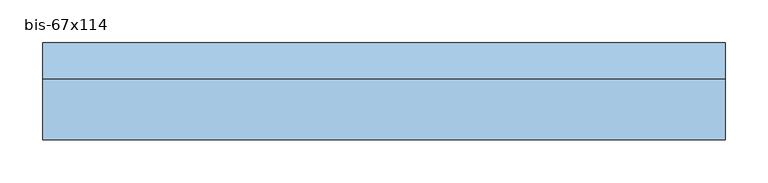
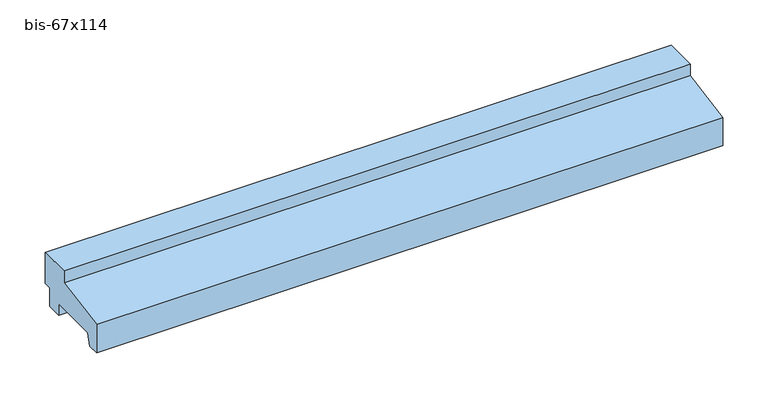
"""IFC4 building model written with IfcOpenShell, lengths in millimetres: window geometry, NLRS_30_WIN_onderdorpel_sh_gen_TOBA-JM : bis-67x114."""

from ifc_helpers import new_model, si_unit, frame, origin, place, context, project, spatial, polyline, outline, extrude, source, transform, mapped, element, save


def bis_67x114_182fecaf(model_context):
    return source(origin(), model_context, "Body", "SweptSolid", [
        extrude(outline(polyline([(0.0, 38.3), (72.0, 51.0), (72.0, 67.0), (114.0, 67.0), (114.0, 25.0), (104.0, 25.0), (104.0, 0.0), (84.0, 0.0), (84.0, 15.0), (20.3, 15.0), (15.0, 0.0), (0.0, 0.0), (0.0, 38.3)])), frame((-400.0, 0.0, 0.0), z_axis=(1.0, 0.0, 0.0), x_axis=(0.0, 1.0, 0.0)), (0.0, 0.0, 1.0), 800.0),
    ])


if __name__ == "__main__":
    model = new_model("IFC4")
    model_context = context("Model", 3, world=origin())
    ifc_project = project(units=[si_unit("LENGTHUNIT", "METRE", prefix="MILLI")], contexts=[model_context])
    site = spatial("IfcSite", under=ifc_project)
    building = spatial("IfcBuilding", under=site)
    placement = place(None, origin())
    bis_67x114_shape = bis_67x114_182fecaf(model_context)
    element("IfcWindow", 1, ObjectType="NLRS_30_WIN_onderdorpel_sh_gen_TOBA-JM : bis-67x114", at=placement, inside=building, context=model_context, shape_type="MappedRepresentation", body=[
        mapped(bis_67x114_shape, transform((0.0, 0.0, 0.0), x_axis=(1.0, 0.0, 0.0), y_axis=(0.0, 1.0, 0.0), z_axis=(0.0, 0.0, 1.0))),
    ])
    save(model, "model.ifc")
